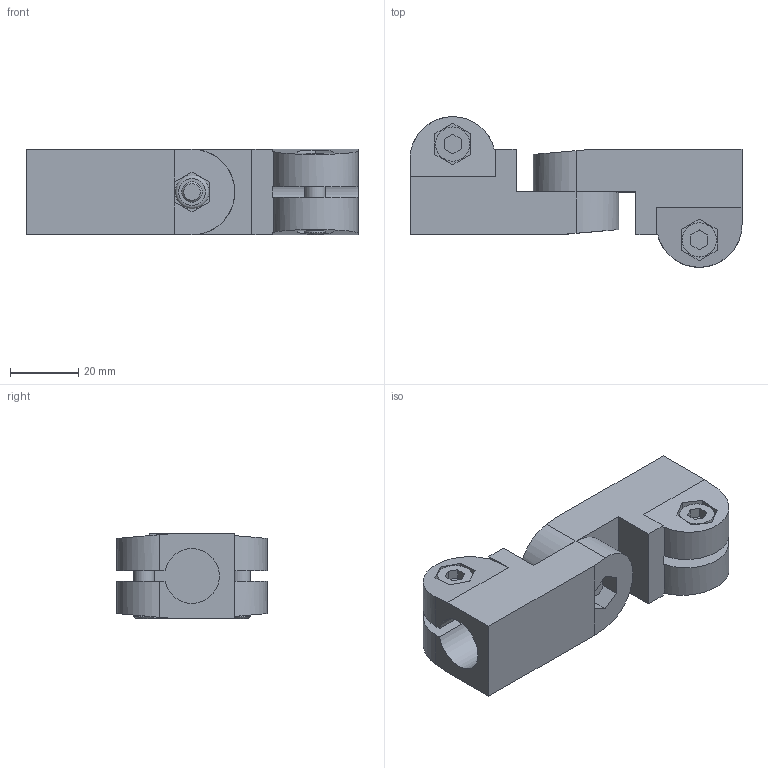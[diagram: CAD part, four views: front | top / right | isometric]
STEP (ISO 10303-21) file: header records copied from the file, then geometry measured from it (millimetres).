
FILE_DESCRIPTION( ( 'STEP AP203' ), '1' );
FILE_NAME( 'C:/Temp/Ganter_Step_05_03_2020/data/3_7/285/Swivel clamp connector joint GN 285-B16-B12-2-BL (0).stp', '2020-03-12T14:32:50', ( 'License CC BY-ND 4.0' ), ( 'CADENAS' ), ' ', 'PARTsolutions', ' ' );
FILE_SCHEMA( ( 'CONFIG_CONTROL_DESIGN' ) );
Length unit declared in the file: millimetre
Products named in the file (5): Swivel clamp connector joint GN 285-B16-B12-2-BL (0); _Swivel clamp connector base GN 285-B16-B12-2-BL-1; _Swivel clamp connector base GN 285-B16-B12-2-BL (0)-2; _Screw GN 285-M6-2; _Nut GN 285-M6-1
Assembly tree (4 placements, depth 2):
  Swivel clamp connector joint GN 285-B16-B12-2-BL (0)
    _Swivel clamp connector base GN 285-B16-B12-2-BL-1
    _Swivel clamp connector base GN 285-B16-B12-2-BL (0)-2
    _Screw GN 285-M6-2
    _Nut GN 285-M6-1
Bounding box: 97 x 44 x 25 mm (x, y, z)
Volume: 52269.2 mm3; surface area: 20747.9 mm2
Topology: 4 solids, 4 shells, 160 faces, 394 edges, 260 vertices
Faces by surface type: plane 126, cylinder 24, cone 8, torus 2
Full cylindrical faces by diameter (mm): 4.917 x1, 6 x5, 6.5 x2, 7 x4, 9.84 x1, 10 x3
Entity records: 4738 total; most frequent: CARTESIAN_POINT 886, DIRECTION 734, ORIENTED_EDGE 720, EDGE_CURVE 360, LINE 292, VECTOR 292, VERTEX_POINT 253, AXIS2_PLACEMENT_3D 221
